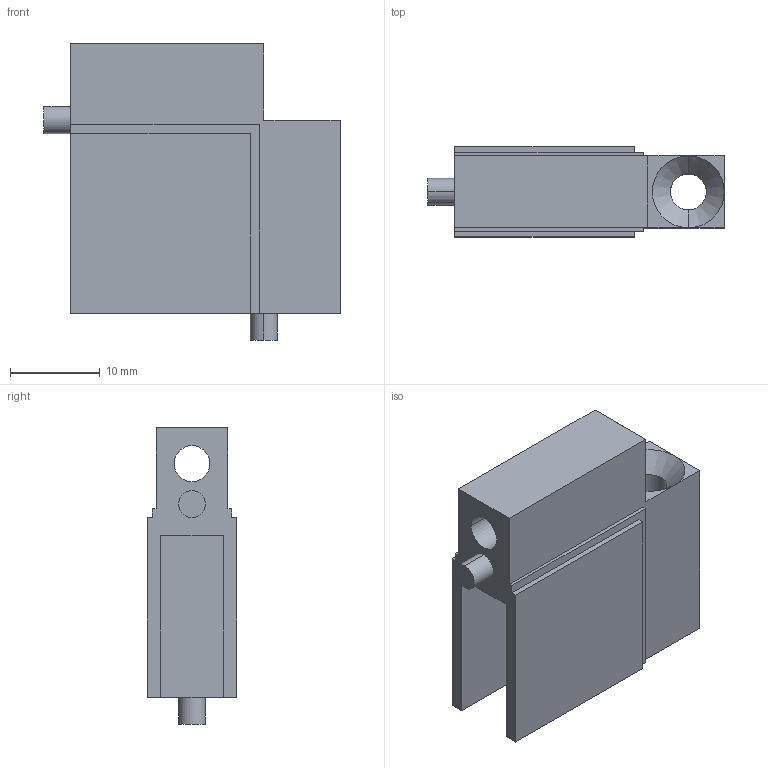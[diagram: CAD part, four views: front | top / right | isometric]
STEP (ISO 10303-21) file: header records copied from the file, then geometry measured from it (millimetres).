
FILE_DESCRIPTION((''),'2;1');
FILE_NAME('GIG1030','2002-12-27T',('Lipro doo'),('Lipro d.o.o.'),'PRO/ENGINEER BY PARAMETRIC TECHNOLOGY CORPORATION, 2001150','PRO/ENGINEER BY PARAMETRIC TECHNOLOGY CORPORATION, 2001150','');
FILE_SCHEMA(('CONFIG_CONTROL_DESIGN'));
Length unit declared in the file: millimetre
Products named in the file (1): GIG1030
Bounding box: 33 x 10 x 33 mm (x, y, z)
Volume: 4621.8 mm3; surface area: 3954.3 mm2
Topology: 1 solids, 1 shells, 42 faces, 106 edges, 66 vertices
Faces by surface type: plane 30, cylinder 8, cone 4
Entity records: 1286 total; most frequent: CARTESIAN_POINT 214, DIRECTION 212, ORIENTED_EDGE 212, EDGE_CURVE 106, VECTOR 84, LINE 84, VERTEX_POINT 66, AXIS2_PLACEMENT_3D 64
